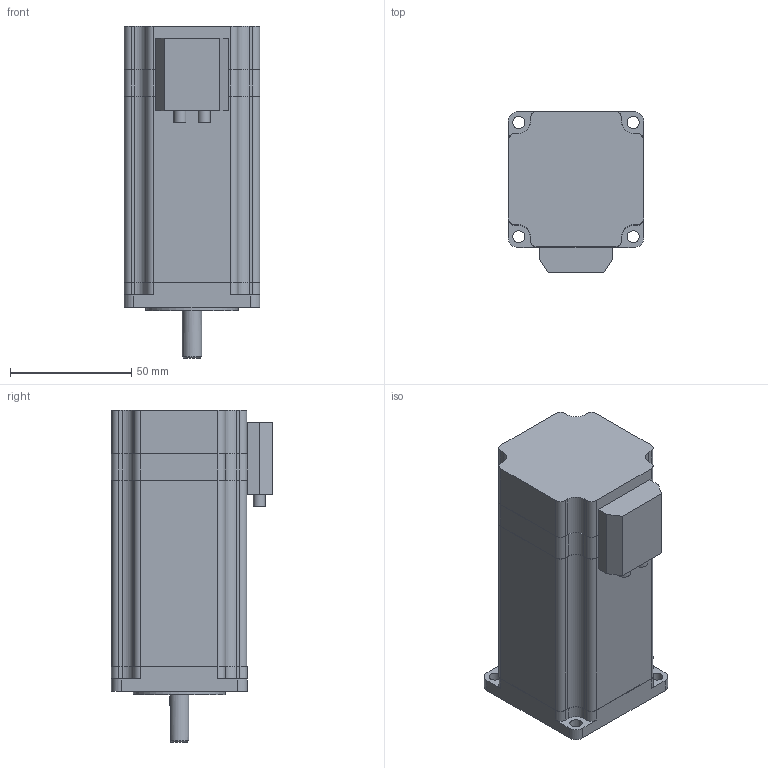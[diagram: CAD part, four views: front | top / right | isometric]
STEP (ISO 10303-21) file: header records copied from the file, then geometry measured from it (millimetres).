
FILE_DESCRIPTION(('STEP AP214'), '1');
FILE_NAME('Äâèãàòåëü øàãîâûé ñ ýíêîäåðîì PL57H1404-D8-1K', '', ('UNSPECIFIED'), ('UNSPECIFIED'), 'ASCON STEP Converter 1.6', 'ASCON Math Kernel', '');
FILE_SCHEMA(('AUTOMOTIVE_DESIGN { 1 0 10303 214 3 1 1}'));
Length unit declared in the file: millimetre
Bounding box: 56 x 66.5 x 137 mm (x, y, z)
Volume: 337091.3 mm3; surface area: 35727.1 mm2
Topology: 3 solids, 3 shells, 136 faces, 370 edges, 245 vertices
Faces by surface type: plane 75, cylinder 60, cone 1
Full cylindrical faces by diameter (mm): 5 x6, 8 x1, 38.1 x1
Entity records: 5480 total; most frequent: CARTESIAN_POINT 791, DIRECTION 757, ORIENTED_EDGE 724, EDGE_CURVE 362, AXIS2_PLACEMENT_3D 260, VERTEX_POINT 245, LINE 237, VECTOR 237
